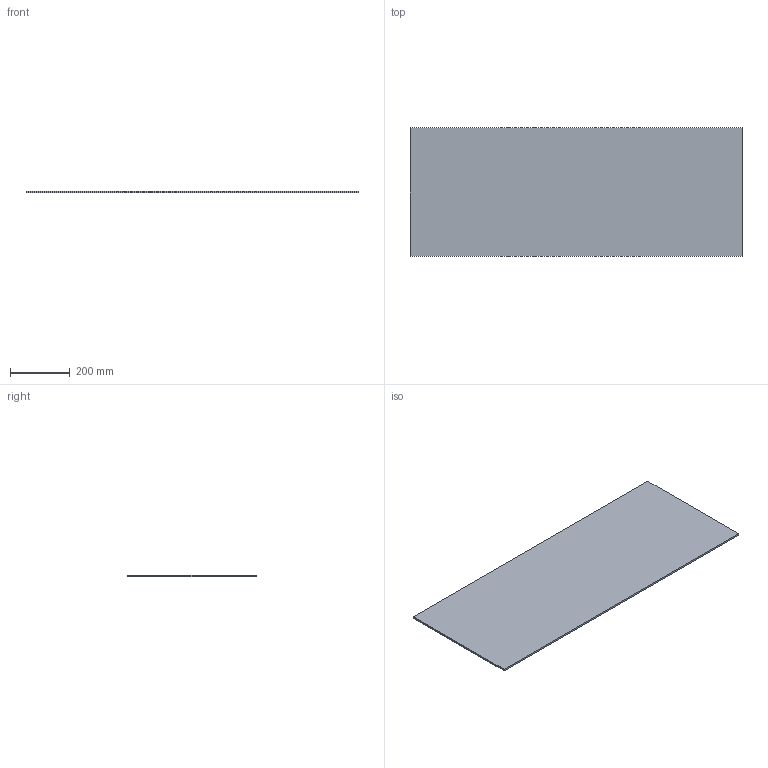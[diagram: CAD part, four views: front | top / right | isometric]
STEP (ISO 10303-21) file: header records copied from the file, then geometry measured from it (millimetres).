
FILE_DESCRIPTION (( 'STEP AP214' ), '1' );
FILE_NAME ('Lochblech_NL450_KAB1200_16.step', '2010-10-11T13:38:29', ( 'grass' ), ( '' ), 'SwSTEP 2.0', 'SolidWorks 2010', '' );
FILE_SCHEMA (( 'AUTOMOTIVE_DESIGN' ));
Length unit declared in the file: millimetre
Products named in the file (1): Lochblech_NL450_KAB1200_16
Bounding box: 1108 x 429 x 6 mm (x, y, z)
Volume: 2851992 mm3; surface area: 969108 mm2
Topology: 1 solids, 1 shells, 6 faces, 12 edges, 8 vertices
Faces by surface type: plane 6
Entity records: 190 total; most frequent: CARTESIAN_POINT 27, DIRECTION 26, ORIENTED_EDGE 24, EDGE_CURVE 12, LINE 12, VECTOR 12, VERTEX_POINT 8, AXIS2_PLACEMENT_3D 7
